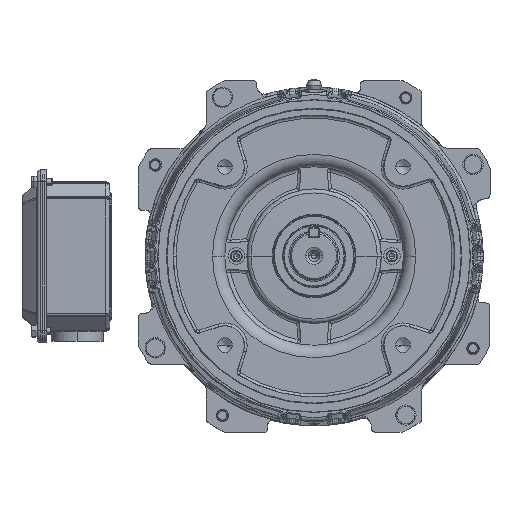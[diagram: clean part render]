
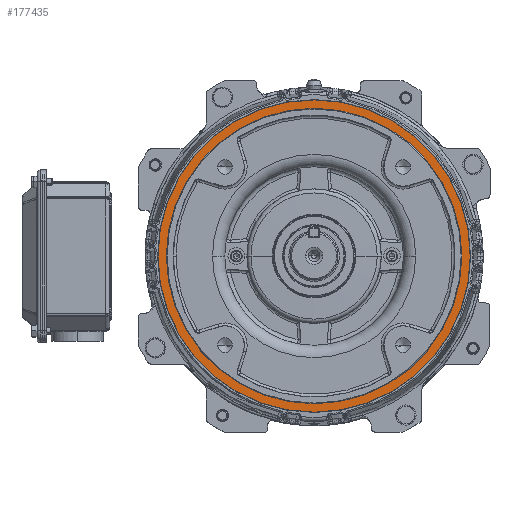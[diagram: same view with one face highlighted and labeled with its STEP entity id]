
A CAD part, top view. The second image highlights one B-rep face of the part: STEP entity #177435.
In plain terms, the highlighted planar face has unit normal (0, 0, 1).
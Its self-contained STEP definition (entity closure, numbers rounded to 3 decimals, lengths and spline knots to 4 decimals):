
#5718 = VERTEX_POINT ( 'NONE', #122091 ) ;
#11593 = CARTESIAN_POINT ( 'NONE',  ( 0., 0., 7.0098 ) ) ;
#18521 = DIRECTION ( 'NONE',  ( 1., 0., 0. ) ) ;
#20289 = VERTEX_POINT ( 'NONE', #202458 ) ;
#21851 = CIRCLE ( 'NONE', #156710, 4.25 ) ;
#32256 = VERTEX_POINT ( 'NONE', #39681 ) ;
#34661 = CIRCLE ( 'NONE', #207341, 4.4912 ) ;
#36132 = FACE_OUTER_BOUND ( 'NONE', #233195, .T. ) ;
#38312 = DIRECTION ( 'NONE',  ( 0., 0., 1. ) ) ;
#39681 = CARTESIAN_POINT ( 'NONE',  ( 4.4912, 0., 7.0098 ) ) ;
#46581 = VERTEX_POINT ( 'NONE', #251464 ) ;
#46806 = ORIENTED_EDGE ( 'NONE', *, *, #154244, .T. ) ;
#61118 = CARTESIAN_POINT ( 'NONE',  ( 0., 0., 7.0098 ) ) ;
#73642 = EDGE_CURVE ( 'NONE', #32256, #20289, #111499, .T. ) ;
#77024 = DIRECTION ( 'NONE',  ( 0., 0., 1. ) ) ;
#79216 = EDGE_CURVE ( 'NONE', #46581, #5718, #247385, .T. ) ;
#85202 = ORIENTED_EDGE ( 'NONE', *, *, #73642, .T. ) ;
#92034 = ORIENTED_EDGE ( 'NONE', *, *, #106462, .F. ) ;
#104788 = CARTESIAN_POINT ( 'NONE',  ( 0., 0., 7.0098 ) ) ;
#106462 = EDGE_CURVE ( 'NONE', #5718, #46581, #21851, .T. ) ;
#111499 = CIRCLE ( 'NONE', #141014, 4.4912 ) ;
#115330 = FACE_BOUND ( 'NONE', #241125, .T. ) ;
#118436 = AXIS2_PLACEMENT_3D ( 'NONE', #154892, #77024, #178609 ) ;
#121032 = AXIS2_PLACEMENT_3D ( 'NONE', #133381, #38312, #18521 ) ;
#122091 = CARTESIAN_POINT ( 'NONE',  ( 4.25, 0., 7.0098 ) ) ;
#133381 = CARTESIAN_POINT ( 'NONE',  ( 0., 0., 7.0098 ) ) ;
#141014 = AXIS2_PLACEMENT_3D ( 'NONE', #104788, #249824, #185265 ) ;
#154244 = EDGE_CURVE ( 'NONE', #20289, #32256, #34661, .T. ) ;
#154892 = CARTESIAN_POINT ( 'NONE',  ( 0., 4.25, 7.0098 ) ) ;
#156190 = PLANE ( 'NONE',  #118436 ) ;
#156710 = AXIS2_PLACEMENT_3D ( 'NONE', #61118, #179846, #202233 ) ;
#160498 = DIRECTION ( 'NONE',  ( 1., 0., 0. ) ) ;
#177435 = ADVANCED_FACE ( 'NONE', ( #115330, #36132 ), #156190, .T. ) ;
#178609 = DIRECTION ( 'NONE',  ( 1., 0., 0. ) ) ;
#179846 = DIRECTION ( 'NONE',  ( 0., 0., 1. ) ) ;
#185265 = DIRECTION ( 'NONE',  ( 1., 0., 0. ) ) ;
#202233 = DIRECTION ( 'NONE',  ( 1., 0., 0. ) ) ;
#202458 = CARTESIAN_POINT ( 'NONE',  ( -4.4912, 0., 7.0098 ) ) ;
#207341 = AXIS2_PLACEMENT_3D ( 'NONE', #11593, #238429, #160498 ) ;
#210354 = ORIENTED_EDGE ( 'NONE', *, *, #79216, .F. ) ;
#233195 = EDGE_LOOP ( 'NONE', ( #46806, #85202 ) ) ;
#238429 = DIRECTION ( 'NONE',  ( 0., 0., 1. ) ) ;
#241125 = EDGE_LOOP ( 'NONE', ( #92034, #210354 ) ) ;
#247385 = CIRCLE ( 'NONE', #121032, 4.25 ) ;
#249824 = DIRECTION ( 'NONE',  ( 0., 0., 1. ) ) ;
#251464 = CARTESIAN_POINT ( 'NONE',  ( -4.25, 0., 7.0098 ) ) ;
